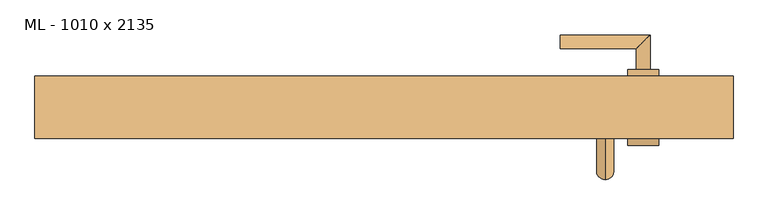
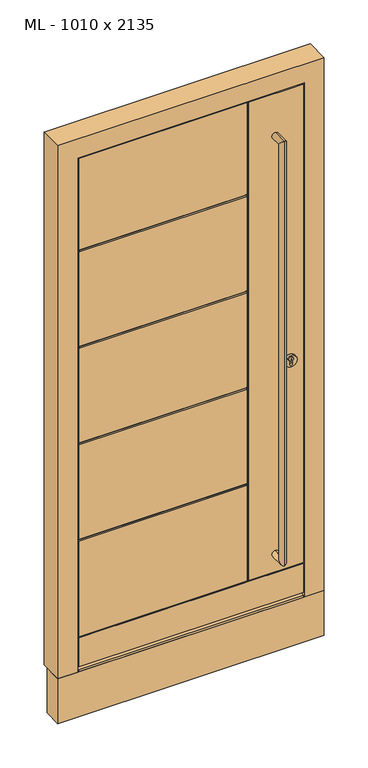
"""IFC4 building model written with IfcOpenShell, lengths in millimetres: door geometry, TU DF 1 - Haustüre : ML - 1010 x 2135."""

from ifc_helpers import new_model, si_unit, point, frame, frame_2d, origin, place, context, project, spatial, polyline, circle_curve, ellipse_curve, trimmed, segment, composite_curve, outline, extrude, faceted_brep, source, transform, mapped, element, save
from ifc_brep_helpers import plane_surface, cylinder_surface, revolved_surface, advanced_brep


def ml_1010_x_2135_97191e1a(model_context):
    return source(origin(), model_context, "Body", "SolidModel", [
        advanced_brep(
        [(320.0, -262.5, 1875.0), (320.0, -262.5, 1900.0), (320.0, -262.5, 225.0), (320.0, -262.5, 200.0), (320.0, -297.5, 225.0), (320.0, -322.5, 200.0), (320.0, -322.5, 1900.0), (320.0, -297.5, 1875.0)],
        [
            (0, 1, circle_curve(frame((320.0, -262.5, 1887.5), z_axis=(0.0, 1.0, 0.0), x_axis=(0.0, 0.0, 1.0)), 12.5)),
            (1, 0, circle_curve(frame((320.0, -262.5, 1887.5), z_axis=(0.0, 1.0, 0.0), x_axis=(0.0, 0.0, 1.0)), 12.5)),
            (2, 3, circle_curve(frame((320.0, -262.5, 212.5), z_axis=(0.0, 1.0, 0.0), x_axis=(0.0, 0.0, -1.0)), 12.5)),
            (3, 2, circle_curve(frame((320.0, -262.5, 212.5), z_axis=(0.0, 1.0, 0.0), x_axis=(0.0, 0.0, -1.0)), 12.5)),
            (4, 5, ellipse_curve(frame((320.0, -310.0, 212.5), z_axis=(0.0, 0.7071067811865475, -0.7071067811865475), x_axis=(0.0, -0.7071067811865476, -0.7071067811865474)), 17.6776695, 12.5)),
            (5, 3),
            (2, 4),
            (5, 4, ellipse_curve(frame((320.0, -310.0, 212.5), z_axis=(0.0, 0.7071067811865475, -0.7071067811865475), x_axis=(0.0, -0.7071067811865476, -0.7071067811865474)), 17.6776695, 12.5)),
            (6, 7, ellipse_curve(frame((320.0, -310.0, 1887.5), z_axis=(0.0, -0.7071067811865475, -0.7071067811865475), x_axis=(0.0, -0.7071067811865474, 0.7071067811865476)), 17.6776695, 12.5)),
            (7, 4),
            (5, 6),
            (7, 6, ellipse_curve(frame((320.0, -310.0, 1887.5), z_axis=(0.0, -0.7071067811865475, -0.7071067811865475), x_axis=(0.0, -0.7071067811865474, 0.7071067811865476)), 17.6776695, 12.5)),
            (0, 7),
            (6, 1),
        ],
        [
            plane_surface(frame((320.0, -262.5, 1900.0), z_axis=(0.0, 1.0, 0.0), x_axis=(-1.0, 0.0, 0.0))),
            plane_surface(frame((320.0, -262.5, 200.0), z_axis=(0.0, 1.0, 0.0), x_axis=(-1.0, 0.0, 0.0))),
            cylinder_surface(frame((320.0, -322.5, 212.5), z_axis=(0.0, -1.0, 0.0), x_axis=(0.0, 0.0, -1.0)), 12.5),
            cylinder_surface(frame((320.0, -310.0, 1900.0), z_axis=(0.0, 0.0, 1.0), x_axis=(0.0, -1.0, 0.0)), 12.5),
            cylinder_surface(frame((320.0, -262.5, 1887.5), z_axis=(0.0, 1.0, 0.0), x_axis=(0.0, 0.0, 1.0)), 12.5),
        ],
        [
            (0, [[1, 2]]),
            (1, [[3, 4]]),
            (2, [[5, 6, -3, 7]]),
            (2, [[8, -7, -4, -6]]),
            (3, [[9, 10, -8, 11]]),
            (3, [[12, -11, -5, -10]]),
            (4, [[-1, 13, -9, 14]]),
            (4, [[-2, -14, -12, -13]]),
        ],
    ),
        advanced_brep(
        [(397.5, -262.5, 970.0), (352.5, -262.5, 970.0), (397.5, -272.5, 970.0), (352.5, -272.5, 970.0), (380.0, -272.5, 958.5), (370.0, -272.5, 958.5), (370.0, -272.5, 971.1261365), (380.0, -272.5, 971.1261365), (380.0, -264.5, 971.1261365), (380.0, -264.5, 958.5), (370.0, -264.5, 971.1261365), (370.0, -264.5, 958.5)],
        [
            (0, 1, circle_curve(frame((375.0, -262.5, 970.0), z_axis=(0.0, 1.0, 0.0), x_axis=(-1.0, 0.0, 0.0)), 22.5)),
            (1, 0, circle_curve(frame((375.0, -262.5, 970.0), z_axis=(0.0, 1.0, 0.0), x_axis=(-1.0, 0.0, 0.0)), 22.5)),
            (2, 3, circle_curve(frame((375.0, -272.5, 970.0), z_axis=(0.0, -1.0, 0.0), x_axis=(-1.0, 0.0, 0.0)), 22.5)),
            (3, 2, circle_curve(frame((375.0, -272.5, 970.0), z_axis=(0.0, -1.0, 0.0), x_axis=(-1.0, 0.0, 0.0)), 22.5)),
            (4, 5, circle_curve(frame((375.0, -272.5, 958.5), z_axis=(0.0, 1.0, 0.0), x_axis=(-1.0, 0.0, 0.0)), 5.0)),
            (5, 6),
            (6, 7, circle_curve(frame((375.0, -272.5, 978.0), z_axis=(0.0, 1.0, 0.0), x_axis=(-1.0, 0.0, 0.0)), 8.5)),
            (7, 4),
            (0, 2),
            (3, 1),
            (7, 8),
            (8, 9),
            (9, 4),
            (6, 10),
            (10, 8, circle_curve(frame((375.0, -264.5, 978.0), z_axis=(0.0, 1.0, 0.0), x_axis=(-1.0, 0.0, 0.0)), 8.5)),
            (5, 11),
            (11, 10),
            (9, 11, circle_curve(frame((375.0, -264.5, 958.5), z_axis=(0.0, 1.0, 0.0), x_axis=(-1.0, 0.0, 0.0)), 5.0)),
        ],
        [
            plane_surface(frame((352.5, -262.5, 970.0), z_axis=(0.0, 1.0, 0.0), x_axis=(0.0, 0.0, 1.0))),
            plane_surface(frame((352.5, -272.5, 970.0), z_axis=(0.0, -1.0, 0.0), x_axis=(0.0, 0.0, -1.0))),
            cylinder_surface(frame((375.0, -272.5, 970.0), z_axis=(0.0, 1.0, 0.0), x_axis=(-1.0, 0.0, 0.0)), 22.5),
            plane_surface(frame((380.0, -262.5, 958.5), z_axis=(-1.0, 0.0, 0.0), x_axis=(0.0, -1.0, 0.0))),
            revolved_surface(polyline([(366.5, -272.5, 978.0), (366.5, -264.5, 978.0)]), (375.0, -262.5, 978.0), (0.0, -1.0, 0.0)),
            plane_surface(frame((370.0, -262.5, 971.1261365), z_axis=(1.0, 0.0, 0.0), x_axis=(0.0, -1.0, 0.0))),
            revolved_surface(polyline([(370.0, -272.5, 958.5), (370.0, -264.5, 958.5)]), (375.0, -262.5, 958.5), (0.0, -1.0, 0.0)),
            plane_surface(frame((366.5, -264.5, 978.0), z_axis=(0.0, -1.0, 0.0), x_axis=(0.0, 0.0, -1.0))),
        ],
        [
            (0, [[1, 2]]),
            (1, [[3, 4], [5, 6, 7, 8]]),
            (2, [[-1, 9, -4, 10]]),
            (2, [[-2, -10, -3, -9]]),
            (3, [[-8, 11, 12, 13]]),
            (4, [[-7, 14, 15, -11]]),
            (5, [[-6, 16, 17, -14]]),
            (6, [[-5, -13, 18, -16]]),
            (7, [[-12, -15, -17, -18]]),
        ],
    ),
        advanced_brep(
        [(212.0, -172.5, 530.2), (-456.0, -172.5, 530.2), (-456.0, -172.5, 908.4), (212.0, -172.5, 908.4), (212.0, -172.5, 916.4), (-456.0, -172.5, 916.4), (-456.0, -172.5, 1294.6), (212.0, -172.5, 1294.6), (456.0, -172.5, 2086.0), (456.0, -172.5, 8.0), (220.0, -172.5, 8.0), (220.0, -172.5, 2086.0), (212.0, -172.5, 1302.6), (-456.0, -172.5, 1302.6), (-456.0, -172.5, 1680.8), (212.0, -172.5, 1680.8), (-456.0, -172.5, 8.0), (-456.0, -172.5, 136.0), (212.0, -172.5, 136.0), (212.0, -172.5, 8.0), (-456.0, -172.5, 144.0), (-456.0, -172.5, 522.2), (212.0, -172.5, 522.2), (212.0, -172.5, 144.0), (-456.0, -172.5, 2086.0), (212.0, -172.5, 2086.0), (212.0, -172.5, 1688.8), (-456.0, -172.5, 1688.8), (456.0, -192.5, 2086.0), (456.0, -192.5, 8.0), (-456.0, -192.5, 2086.0), (-456.0, -192.5, 8.0), (-441.0, -192.5, 2071.0), (441.0, -192.5, 2071.0), (441.0, -192.5, 20.0), (-441.0, -192.5, 20.0), (441.0, -242.5, 2071.0), (441.0, -242.5, 20.0), (-441.0, -242.5, 2071.0), (-441.0, -242.5, 20.0), (-426.0, -242.5, 2056.0), (426.0, -242.5, 2056.0), (426.0, -242.5, 140.0), (-426.0, -242.5, 140.0), (426.0, -262.5, 2056.0), (426.0, -262.5, 140.0), (-426.0, -262.5, 530.2), (212.0, -262.5, 530.2), (212.0, -262.5, 908.4), (-426.0, -262.5, 908.4), (-426.0, -262.5, 916.4), (212.0, -262.5, 916.4), (212.0, -262.5, 1294.6), (-426.0, -262.5, 1294.6), (-426.0, -262.5, 1302.6), (212.0, -262.5, 1302.6), (212.0, -262.5, 1680.8), (-426.0, -262.5, 1680.8), (220.0, -262.5, 2056.0), (220.0, -262.5, 140.0), (-426.0, -262.5, 522.2), (-426.0, -262.5, 140.0), (212.0, -262.5, 140.0), (212.0, -262.5, 522.2), (212.0, -262.5, 2056.0), (-426.0, -262.5, 2056.0), (-426.0, -262.5, 1688.8), (212.0, -262.5, 1688.8), (-426.0, -258.5, 526.2), (-426.0, -258.5, 912.4), (-426.0, -258.5, 1298.6), (-426.0, -258.5, 1684.8), (-456.0, -176.5, 1684.8), (-456.0, -176.5, 1298.6), (-456.0, -176.5, 912.4), (-456.0, -176.5, 526.2), (-456.0, -176.5, 140.0), (216.0, -176.5, 2086.0), (216.0, -258.5, 2056.0), (216.0, -176.5, 8.0), (216.0, -258.5, 140.0), (216.0, -258.5, 526.2), (216.0, -176.5, 526.2), (216.0, -176.5, 140.0), (216.0, -258.5, 1684.8), (216.0, -258.5, 1298.6), (216.0, -258.5, 912.4), (216.0, -176.5, 912.4), (216.0, -176.5, 1298.6), (216.0, -176.5, 1684.8)],
        [
            (0, 1),
            (1, 2),
            (2, 3),
            (3, 0),
            (4, 5),
            (5, 6),
            (6, 7),
            (7, 4),
            (8, 9),
            (9, 10),
            (10, 11),
            (11, 8),
            (12, 13),
            (13, 14),
            (14, 15),
            (15, 12),
            (16, 17),
            (17, 18),
            (18, 19),
            (19, 16),
            (20, 21),
            (21, 22),
            (22, 23),
            (23, 20),
            (24, 25),
            (25, 26),
            (26, 27),
            (27, 24),
            (8, 28),
            (28, 29),
            (29, 9),
            (28, 30),
            (30, 31),
            (31, 29),
            (32, 33),
            (33, 34),
            (34, 35),
            (35, 32),
            (33, 36),
            (36, 37),
            (37, 34),
            (36, 38),
            (38, 39),
            (39, 37),
            (40, 41),
            (41, 42),
            (42, 43),
            (43, 40),
            (41, 44),
            (44, 45),
            (45, 42),
            (46, 47),
            (47, 48),
            (48, 49),
            (49, 46),
            (50, 51),
            (51, 52),
            (52, 53),
            (53, 50),
            (54, 55),
            (55, 56),
            (56, 57),
            (57, 54),
            (44, 58),
            (58, 59),
            (59, 45),
            (60, 61),
            (61, 62),
            (62, 63),
            (63, 60),
            (64, 65),
            (65, 66),
            (66, 67),
            (67, 64),
            (65, 40),
            (43, 61),
            (60, 68, circle_curve(frame((-426.0, -258.5, 522.2), z_axis=(-1.0, 0.0, 0.0), x_axis=(0.0, -1.0, 0.0)), 4.0)),
            (68, 46, circle_curve(frame((-426.0, -258.5, 530.2), z_axis=(-1.0, 0.0, 0.0), x_axis=(0.0, -1.0, 0.0)), 4.0)),
            (49, 69, circle_curve(frame((-426.0, -258.5, 908.4), z_axis=(-1.0, 0.0, 0.0), x_axis=(0.0, -1.0, 0.0)), 4.0)),
            (69, 50, circle_curve(frame((-426.0, -258.5, 916.4), z_axis=(-1.0, 0.0, 0.0), x_axis=(0.0, -1.0, 0.0)), 4.0)),
            (53, 70, circle_curve(frame((-426.0, -258.5, 1294.6), z_axis=(-1.0, 0.0, 0.0), x_axis=(0.0, -1.0, 0.0)), 4.0)),
            (70, 54, circle_curve(frame((-426.0, -258.5, 1302.6), z_axis=(-1.0, 0.0, 0.0), x_axis=(0.0, -1.0, 0.0)), 4.0)),
            (57, 71, circle_curve(frame((-426.0, -258.5, 1680.8), z_axis=(-1.0, 0.0, 0.0), x_axis=(0.0, -1.0, 0.0)), 4.0)),
            (71, 66, circle_curve(frame((-426.0, -258.5, 1688.8), z_axis=(-1.0, 0.0, 0.0), x_axis=(0.0, -1.0, 0.0)), 4.0)),
            (38, 32),
            (35, 39),
            (30, 24),
            (27, 72, circle_curve(frame((-456.0, -176.5, 1688.8), z_axis=(-1.0, 0.0, 0.0), x_axis=(0.0, 1.0, 0.0)), 4.0)),
            (72, 14, circle_curve(frame((-456.0, -176.5, 1680.8), z_axis=(-1.0, 0.0, 0.0), x_axis=(0.0, 1.0, 0.0)), 4.0)),
            (13, 73, circle_curve(frame((-456.0, -176.5, 1302.6), z_axis=(-1.0, 0.0, 0.0), x_axis=(0.0, 1.0, 0.0)), 4.0)),
            (73, 6, circle_curve(frame((-456.0, -176.5, 1294.6), z_axis=(-1.0, 0.0, 0.0), x_axis=(0.0, 1.0, 0.0)), 4.0)),
            (5, 74, circle_curve(frame((-456.0, -176.5, 916.4), z_axis=(-1.0, 0.0, 0.0), x_axis=(0.0, 1.0, 0.0)), 4.0)),
            (74, 2, circle_curve(frame((-456.0, -176.5, 908.4), z_axis=(-1.0, 0.0, 0.0), x_axis=(0.0, 1.0, 0.0)), 4.0)),
            (1, 75, circle_curve(frame((-456.0, -176.5, 530.2), z_axis=(-1.0, 0.0, 0.0), x_axis=(0.0, 1.0, 0.0)), 4.0)),
            (75, 21, circle_curve(frame((-456.0, -176.5, 522.2), z_axis=(-1.0, 0.0, 0.0), x_axis=(0.0, 1.0, 0.0)), 4.0)),
            (20, 76, circle_curve(frame((-456.0, -176.5, 144.0), z_axis=(-1.0, 0.0, 0.0), x_axis=(0.0, 1.0, 0.0)), 4.0)),
            (76, 17, circle_curve(frame((-456.0, -176.5, 136.0), z_axis=(-1.0, 0.0, 0.0), x_axis=(0.0, 1.0, 0.0)), 4.0)),
            (16, 31),
            (11, 77, circle_curve(frame((220.0, -176.5, 2086.0), z_axis=(0.0, 0.0, 1.0), x_axis=(0.0, 1.0, 0.0)), 4.0)),
            (77, 25, circle_curve(frame((212.0, -176.5, 2086.0), z_axis=(0.0, 0.0, 1.0), x_axis=(0.0, 1.0, 0.0)), 4.0)),
            (64, 78, circle_curve(frame((212.0, -258.5, 2056.0), z_axis=(0.0, 0.0, 1.0), x_axis=(0.0, -1.0, 0.0)), 4.0)),
            (78, 58, circle_curve(frame((220.0, -258.5, 2056.0), z_axis=(0.0, 0.0, 1.0), x_axis=(0.0, -1.0, 0.0)), 4.0)),
            (19, 79, circle_curve(frame((212.0, -176.5, 8.0), z_axis=(0.0, 0.0, -1.0), x_axis=(0.0, 1.0, 0.0)), 4.0)),
            (79, 10, circle_curve(frame((220.0, -176.5, 8.0), z_axis=(0.0, 0.0, -1.0), x_axis=(0.0, 1.0, 0.0)), 4.0)),
            (59, 80, circle_curve(frame((220.0, -258.5, 140.0), z_axis=(0.0, 0.0, -1.0), x_axis=(0.0, -1.0, 0.0)), 4.0)),
            (80, 62, circle_curve(frame((212.0, -258.5, 140.0), z_axis=(0.0, 0.0, -1.0), x_axis=(0.0, -1.0, 0.0)), 4.0)),
            (81, 68),
            (63, 81, ellipse_curve(frame((212.0, -258.5, 522.2), z_axis=(-0.7071067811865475, 0.0, 0.7071067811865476), x_axis=(-0.7071067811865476, 0.0, -0.7071067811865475)), 5.6568542, 4.0)),
            (81, 47, ellipse_curve(frame((212.0, -258.5, 530.2), z_axis=(-0.7071067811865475, 0.0, -0.7071067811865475), x_axis=(-0.7071067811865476, 0.0, 0.7071067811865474)), 5.6568542, 4.0)),
            (75, 82),
            (82, 22, ellipse_curve(frame((212.0, -176.5, 522.2), z_axis=(-0.7071067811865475, 0.0, 0.7071067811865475), x_axis=(0.7071067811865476, 0.0, 0.7071067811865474)), 5.6568542, 4.0)),
            (0, 82, ellipse_curve(frame((212.0, -176.5, 530.2), z_axis=(-0.7071067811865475, 0.0, -0.7071067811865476), x_axis=(0.7071067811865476, 0.0, -0.7071067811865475)), 5.6568542, 4.0)),
            (76, 83),
            (83, 18, ellipse_curve(frame((212.0, -176.5, 136.0), z_axis=(-0.7071067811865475, 0.0, 0.7071067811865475), x_axis=(-0.7071067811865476, 0.0, -0.7071067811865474)), 5.6568542, 4.0)),
            (23, 83, ellipse_curve(frame((212.0, -176.5, 144.0), z_axis=(-0.7071067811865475, 0.0, -0.7071067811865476), x_axis=(-0.7071067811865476, 0.0, 0.7071067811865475)), 5.6568542, 4.0)),
            (81, 80),
            (78, 84),
            (84, 85),
            (85, 86),
            (86, 81),
            (67, 84, ellipse_curve(frame((212.0, -258.5, 1688.8), z_axis=(0.7071067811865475, 0.0, 0.7071067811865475), x_axis=(-0.7071067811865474, 0.0, 0.7071067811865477)), 5.6568542, 4.0)),
            (86, 48, ellipse_curve(frame((212.0, -258.5, 908.4), z_axis=(0.7071067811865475, 0.0, -0.7071067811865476), x_axis=(0.7071067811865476, 0.0, 0.7071067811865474)), 5.6568542, 4.0)),
            (51, 86, ellipse_curve(frame((212.0, -258.5, 916.4), z_axis=(0.7071067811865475, 0.0, 0.7071067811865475), x_axis=(-0.7071067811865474, 0.0, 0.7071067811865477)), 5.6568542, 4.0)),
            (85, 52, ellipse_curve(frame((212.0, -258.5, 1294.6), z_axis=(0.7071067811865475, 0.0, -0.7071067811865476), x_axis=(0.7071067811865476, 0.0, 0.7071067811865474)), 5.6568542, 4.0)),
            (55, 85, ellipse_curve(frame((212.0, -258.5, 1302.6), z_axis=(0.7071067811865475, 0.0, 0.7071067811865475), x_axis=(-0.7071067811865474, 0.0, 0.7071067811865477)), 5.6568542, 4.0)),
            (84, 56, ellipse_curve(frame((212.0, -258.5, 1680.8), z_axis=(0.7071067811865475, 0.0, -0.7071067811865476), x_axis=(0.7071067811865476, 0.0, 0.7071067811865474)), 5.6568542, 4.0)),
            (86, 69),
            (83, 82),
            (82, 87),
            (87, 88),
            (88, 89),
            (89, 77),
            (79, 83),
            (89, 26, ellipse_curve(frame((212.0, -176.5, 1688.8), z_axis=(0.7071067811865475, 0.0, 0.7071067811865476), x_axis=(0.7071067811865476, 0.0, -0.7071067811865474)), 5.6568542, 4.0)),
            (3, 87, ellipse_curve(frame((212.0, -176.5, 908.4), z_axis=(0.7071067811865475, 0.0, -0.7071067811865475), x_axis=(-0.7071067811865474, 0.0, -0.7071067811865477)), 5.6568542, 4.0)),
            (87, 4, ellipse_curve(frame((212.0, -176.5, 916.4), z_axis=(0.7071067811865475, 0.0, 0.7071067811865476), x_axis=(0.7071067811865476, 0.0, -0.7071067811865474)), 5.6568542, 4.0)),
            (7, 88, ellipse_curve(frame((212.0, -176.5, 1294.6), z_axis=(0.7071067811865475, 0.0, -0.7071067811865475), x_axis=(-0.7071067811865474, 0.0, -0.7071067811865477)), 5.6568542, 4.0)),
            (88, 12, ellipse_curve(frame((212.0, -176.5, 1302.6), z_axis=(0.7071067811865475, 0.0, 0.7071067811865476), x_axis=(0.7071067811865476, 0.0, -0.7071067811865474)), 5.6568542, 4.0)),
            (15, 89, ellipse_curve(frame((212.0, -176.5, 1680.8), z_axis=(0.7071067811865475, 0.0, -0.7071067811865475), x_axis=(-0.7071067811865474, 0.0, -0.7071067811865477)), 5.6568542, 4.0)),
            (74, 87),
            (73, 88),
            (85, 70),
            (72, 89),
            (84, 71),
        ],
        [
            plane_surface(frame((456.0, -172.5, 2086.0), z_axis=(0.0, 1.0, 0.0), x_axis=(0.0, 0.0, -1.0))),
            plane_surface(frame((456.0, -262.5, 2086.0), z_axis=(1.0, 0.0, 0.0), x_axis=(0.0, 0.0, -1.0))),
            plane_surface(frame((441.0, -192.5, 0.0), z_axis=(0.0, -1.0, 0.0), x_axis=(0.0, 0.0, 1.0))),
            plane_surface(frame((441.0, -242.5, 0.0), z_axis=(1.0, 0.0, 0.0), x_axis=(0.0, 0.0, 1.0))),
            plane_surface(frame((426.0, -242.5, 0.0), z_axis=(0.0, -1.0, 0.0), x_axis=(0.0, 0.0, 1.0))),
            plane_surface(frame((426.0, -262.5, 0.0), z_axis=(1.0, 0.0, 0.0), x_axis=(0.0, 0.0, 1.0))),
            plane_surface(frame((-456.0, -262.5, 2086.0), z_axis=(0.0, -1.0, 0.0), x_axis=(0.0, 0.0, -1.0))),
            plane_surface(frame((-426.0, -262.5, 2056.0), z_axis=(-1.0, 0.0, 0.0), x_axis=(0.0, 0.0, -1.0))),
            plane_surface(frame((-441.0, -242.5, 2071.0), z_axis=(-1.0, 0.0, 0.0), x_axis=(0.0, 0.0, -1.0))),
            plane_surface(frame((-456.0, -172.5, 2086.0), z_axis=(-1.0, 0.0, 0.0), x_axis=(0.0, 0.0, -1.0))),
            plane_surface(frame((456.0, -262.5, 2086.0), z_axis=(0.0, 0.0, 1.0), x_axis=(1.0, 0.0, 0.0))),
            plane_surface(frame((426.0, -262.5, 2056.0), z_axis=(0.0, 0.0, 1.0), x_axis=(-1.0, 0.0, 0.0))),
            plane_surface(frame((441.0, -242.5, 2071.0), z_axis=(0.0, 0.0, 1.0), x_axis=(-1.0, 0.0, 0.0))),
            plane_surface(frame((-456.0, -262.5, 20.0), z_axis=(0.0, 0.0, -1.0), x_axis=(1.0, 0.0, 0.0))),
            plane_surface(frame((-456.0, -192.5, 8.0), z_axis=(0.0, 0.0, -1.0), x_axis=(1.0, 0.0, 0.0))),
            plane_surface(frame((-456.0, -262.5, 140.0), z_axis=(0.0, 0.0, -1.0), x_axis=(1.0, 0.0, 0.0))),
            cylinder_surface(frame((216.0, -258.5, 522.2), z_axis=(-1.0, 0.0, 0.0), x_axis=(0.0, -1.0, 0.0)), 4.0),
            cylinder_surface(frame((216.0, -258.5, 530.2), z_axis=(-1.0, 0.0, 0.0), x_axis=(0.0, -1.0, 0.0)), 4.0),
            cylinder_surface(frame((-496.0, -176.5, 522.2), z_axis=(1.0, 0.0, 0.0), x_axis=(0.0, 1.0, 0.0)), 4.0),
            cylinder_surface(frame((-496.0, -176.5, 530.2), z_axis=(1.0, 0.0, 0.0), x_axis=(0.0, 1.0, 0.0)), 4.0),
            cylinder_surface(frame((216.0, -176.5, 136.0), z_axis=(-1.0, 0.0, 0.0), x_axis=(0.0, 1.0, 0.0)), 4.0),
            cylinder_surface(frame((216.0, -176.5, 144.0), z_axis=(-1.0, 0.0, 0.0), x_axis=(0.0, 1.0, 0.0)), 4.0),
            cylinder_surface(frame((220.0, -258.5, -10.0), z_axis=(0.0, 0.0, 1.0), x_axis=(0.0, -1.0, 0.0)), 4.0),
            cylinder_surface(frame((212.0, -258.5, -10.0), z_axis=(0.0, 0.0, 1.0), x_axis=(0.0, -1.0, 0.0)), 4.0),
            cylinder_surface(frame((216.0, -258.5, 908.4), z_axis=(-1.0, 0.0, 0.0), x_axis=(0.0, -1.0, 0.0)), 4.0),
            cylinder_surface(frame((216.0, -258.5, 916.4), z_axis=(-1.0, 0.0, 0.0), x_axis=(0.0, -1.0, 0.0)), 4.0),
            cylinder_surface(frame((220.0, -176.5, 2096.0), z_axis=(0.0, 0.0, -1.0), x_axis=(0.0, 1.0, 0.0)), 4.0),
            cylinder_surface(frame((212.0, -176.5, 2096.0), z_axis=(0.0, 0.0, -1.0), x_axis=(0.0, 1.0, 0.0)), 4.0),
            cylinder_surface(frame((-496.0, -176.5, 908.4), z_axis=(1.0, 0.0, 0.0), x_axis=(0.0, 1.0, 0.0)), 4.0),
            cylinder_surface(frame((-496.0, -176.5, 916.4), z_axis=(1.0, 0.0, 0.0), x_axis=(0.0, 1.0, 0.0)), 4.0),
            cylinder_surface(frame((-496.0, -176.5, 1294.6), z_axis=(1.0, 0.0, 0.0), x_axis=(0.0, 1.0, 0.0)), 4.0),
            cylinder_surface(frame((-496.0, -176.5, 1302.6), z_axis=(1.0, 0.0, 0.0), x_axis=(0.0, 1.0, 0.0)), 4.0),
            cylinder_surface(frame((216.0, -258.5, 1294.6), z_axis=(-1.0, 0.0, 0.0), x_axis=(0.0, -1.0, 0.0)), 4.0),
            cylinder_surface(frame((216.0, -258.5, 1302.6), z_axis=(-1.0, 0.0, 0.0), x_axis=(0.0, -1.0, 0.0)), 4.0),
            cylinder_surface(frame((-496.0, -176.5, 1680.8), z_axis=(1.0, 0.0, 0.0), x_axis=(0.0, 1.0, 0.0)), 4.0),
            cylinder_surface(frame((-496.0, -176.5, 1688.8), z_axis=(1.0, 0.0, 0.0), x_axis=(0.0, 1.0, 0.0)), 4.0),
            cylinder_surface(frame((216.0, -258.5, 1680.8), z_axis=(-1.0, 0.0, 0.0), x_axis=(0.0, -1.0, 0.0)), 4.0),
            cylinder_surface(frame((216.0, -258.5, 1688.8), z_axis=(-1.0, 0.0, 0.0), x_axis=(0.0, -1.0, 0.0)), 4.0),
        ],
        [
            (0, [[1, 2, 3, 4]]),
            (0, [[5, 6, 7, 8]]),
            (0, [[9, 10, 11, 12]]),
            (0, [[13, 14, 15, 16]]),
            (0, [[17, 18, 19, 20]]),
            (0, [[21, 22, 23, 24]]),
            (0, [[25, 26, 27, 28]]),
            (1, [[29, 30, 31, -9]]),
            (2, [[32, 33, 34, -30], [35, 36, 37, 38]]),
            (3, [[39, 40, 41, -36]]),
            (4, [[42, 43, 44, -40], [45, 46, 47, 48]]),
            (5, [[49, 50, 51, -46]]),
            (6, [[52, 53, 54, 55]]),
            (6, [[56, 57, 58, 59]]),
            (6, [[60, 61, 62, 63]]),
            (6, [[-50, 64, 65, 66]]),
            (6, [[67, 68, 69, 70]]),
            (6, [[71, 72, 73, 74]]),
            (7, [[75, -48, 76, -67, 77, 78, -55, 79, 80, -59, 81, 82, -63, 83, 84, -72]]),
            (8, [[85, -38, 86, -43]]),
            (9, [[87, -28, 88, 89, -14, 90, 91, -6, 92, 93, -2, 94, 95, -21, 96, 97, -17, 98, -33]]),
            (10, [[-29, -12, 99, 100, -25, -87, -32]]),
            (11, [[-49, -45, -75, -71, 101, 102, -64]]),
            (12, [[-42, -39, -35, -85]]),
            (13, [[-37, -41, -44, -86]]),
            (14, [[-31, -34, -98, -20, 103, 104, -10]]),
            (15, [[-47, -51, -66, 105, 106, -68, -76]]),
            (16, [[107, -77, -70, 108]]),
            (17, [[-107, 109, -52, -78]]),
            (18, [[110, 111, -22, -95]]),
            (19, [[-110, -94, -1, 112]]),
            (20, [[113, 114, -18, -97]]),
            (21, [[-113, -96, -24, 115]]),
            (22, [[116, -105, -65, -102, 117, 118, 119, 120]]),
            (23, [[-101, -74, 121, -117]]),
            (23, [[-109, -120, 122, -53]]),
            (23, [[-116, -108, -69, -106]]),
            (23, [[123, -119, 124, -57]]),
            (23, [[125, -118, 126, -61]]),
            (24, [[127, -79, -54, -122]]),
            (25, [[-127, -123, -56, -80]]),
            (26, [[128, 129, 130, 131, 132, -99, -11, -104, 133]]),
            (27, [[-100, -132, 134, -26]]),
            (27, [[-112, -4, 135, -129]]),
            (27, [[-133, -103, -19, -114]]),
            (27, [[-128, -115, -23, -111]]),
            (27, [[136, -8, 137, -130]]),
            (27, [[138, -16, 139, -131]]),
            (28, [[140, -135, -3, -93]]),
            (29, [[-140, -92, -5, -136]]),
            (30, [[141, -137, -7, -91]]),
            (31, [[-141, -90, -13, -138]]),
            (32, [[142, -81, -58, -124]]),
            (33, [[-142, -125, -60, -82]]),
            (34, [[143, -139, -15, -89]]),
            (35, [[-143, -88, -27, -134]]),
            (36, [[144, -83, -62, -126]]),
            (37, [[-144, -121, -73, -84]]),
        ],
    ),
        extrude(outline(polyline([(-242.5, 140.0), (-242.5, 20.0), (-254.4609036, 20.0), (-254.4609036, 24.0), (-258.4609036, 24.0), (-258.4609036, 20.0), (-262.5, 20.0), (-262.5, 136.0), (-258.5, 136.0), (-258.5, 140.0), (-242.5, 140.0)])), frame((-426.0, 0.0, 0.0), z_axis=(1.0, 0.0, 0.0), x_axis=(0.0, 1.0, 0.0)), (0.0, 0.0, 1.0), 852.0),
        faceted_brep([(426.0, -242.5, 0.0), (426.0, -242.5, 9.0), (426.0, -262.5, 7.0), (426.0, -262.5, 0.0), (-426.0, -242.5, 0.0), (-426.0, -242.5, 9.0), (-441.0, -242.5, 9.0), (-441.0, -242.5, 0.0), (441.0, -242.5, 0.0), (441.0, -242.5, 9.0), (441.0, -192.5, 0.0), (441.0, -192.5, 15.0), (441.0, -212.5, 15.0), (441.0, -212.5, 12.0), (-426.0, -262.5, 0.0), (-426.0, -262.5, 7.0), (-441.0, -212.5, 12.0), (-441.0, -212.5, 15.0), (-441.0, -192.5, 15.0), (-441.0, -192.5, 0.0)], [[[0, 1, 2, 3]], [[4, 5, 6, 7]], [[1, 0, 8, 9]], [[9, 8, 10, 11, 12, 13]], [[5, 4, 14, 15]], [[7, 6, 16, 17, 18, 19]], [[18, 11, 10, 19]], [[19, 10, 8, 0, 3, 14, 4, 7]], [[14, 3, 2, 15]], [[11, 18, 17, 12]], [[15, 2, 1, 9, 13, 16, 6, 5]], [[12, 17, 16, 13]]]),
        advanced_brep(
        [(397.5, -172.5, 970.0), (352.5, -172.5, 970.0), (397.5, -162.5, 970.0), (352.5, -162.5, 970.0), (380.0, -162.5, 958.5), (380.0, -162.5, 971.1261365), (370.0, -162.5, 971.1261365), (370.0, -162.5, 958.5), (380.0, -170.5, 958.5), (380.0, -170.5, 971.1261365), (370.0, -170.5, 971.1261365), (370.0, -170.5, 958.5)],
        [
            (0, 1, circle_curve(frame((375.0, -172.5, 970.0), z_axis=(0.0, -1.0, 0.0), x_axis=(-1.0, 0.0, 0.0)), 22.5)),
            (1, 0, circle_curve(frame((375.0, -172.5, 970.0), z_axis=(0.0, -1.0, 0.0), x_axis=(-1.0, 0.0, 0.0)), 22.5)),
            (2, 3, circle_curve(frame((375.0, -162.5, 970.0), z_axis=(0.0, 1.0, 0.0), x_axis=(-1.0, 0.0, 0.0)), 22.5)),
            (3, 2, circle_curve(frame((375.0, -162.5, 970.0), z_axis=(0.0, 1.0, 0.0), x_axis=(-1.0, 0.0, 0.0)), 22.5)),
            (4, 5),
            (5, 6, circle_curve(frame((375.0, -162.5, 978.0), z_axis=(0.0, -1.0, 0.0), x_axis=(-1.0, 0.0, 0.0)), 8.5)),
            (6, 7),
            (7, 4, circle_curve(frame((375.0, -162.5, 958.5), z_axis=(0.0, -1.0, 0.0), x_axis=(-1.0, 0.0, 0.0)), 5.0)),
            (1, 3),
            (2, 0),
            (4, 8),
            (8, 9),
            (9, 5),
            (9, 10, circle_curve(frame((375.0, -170.5, 978.0), z_axis=(0.0, -1.0, 0.0), x_axis=(-1.0, 0.0, 0.0)), 8.5)),
            (10, 6),
            (10, 11),
            (11, 7),
            (11, 8, circle_curve(frame((375.0, -170.5, 958.5), z_axis=(0.0, -1.0, 0.0), x_axis=(-1.0, 0.0, 0.0)), 5.0)),
        ],
        [
            plane_surface(frame((352.5, -172.5, 970.0), z_axis=(0.0, -1.0, 0.0), x_axis=(0.0, 0.0, 1.0))),
            plane_surface(frame((352.5, -162.5, 970.0), z_axis=(0.0, 1.0, 0.0), x_axis=(0.0, 0.0, -1.0))),
            cylinder_surface(frame((375.0, -162.5, 970.0), z_axis=(0.0, -1.0, 0.0), x_axis=(-1.0, 0.0, 0.0)), 22.5),
            plane_surface(frame((380.0, -172.5, 958.5), z_axis=(-1.0, 0.0, 0.0), x_axis=(0.0, 1.0, 0.0))),
            revolved_surface(polyline([(366.5, -162.5, 978.0), (366.5, -170.5, 978.0)]), (375.0, -172.5, 978.0), (0.0, 1.0, 0.0)),
            plane_surface(frame((370.0, -172.5, 971.1261365), z_axis=(1.0, 0.0, 0.0), x_axis=(0.0, 1.0, 0.0))),
            revolved_surface(polyline([(370.0, -162.5, 958.5), (370.0, -170.5, 958.5)]), (375.0, -172.5, 958.5), (0.0, 1.0, 0.0)),
            plane_surface(frame((380.0, -170.5, 958.5), z_axis=(0.0, 1.0, 0.0), x_axis=(0.0, 0.0, 1.0))),
        ],
        [
            (0, [[1, 2]]),
            (1, [[3, 4], [5, 6, 7, 8]]),
            (2, [[9, -3, 10, -2]]),
            (2, [[-10, -4, -9, -1]]),
            (3, [[11, 12, 13, -5]]),
            (4, [[-13, 14, 15, -6]]),
            (5, [[-15, 16, 17, -7]]),
            (6, [[-17, 18, -11, -8]]),
            (7, [[-18, -16, -14, -12]]),
        ],
    ),
        advanced_brep(
        [(365.0, -162.5, 1050.0), (385.0, -162.5, 1050.0), (385.0, -112.5, 1050.0), (365.0, -132.5, 1050.0), (255.0, -132.5, 1050.0), (255.0, -112.5, 1050.0)],
        [
            (0, 1, circle_curve(frame((375.0, -162.5, 1050.0), z_axis=(0.0, -1.0, 0.0), x_axis=(1.0, 0.0, 0.0)), 10.0)),
            (1, 0, circle_curve(frame((375.0, -162.5, 1050.0), z_axis=(0.0, -1.0, 0.0), x_axis=(1.0, 0.0, 0.0)), 10.0)),
            (1, 2),
            (2, 3, ellipse_curve(frame((375.0, -122.5, 1050.0), z_axis=(0.7071067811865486, -0.7071067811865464, 0.0), x_axis=(-0.7071067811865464, -0.7071067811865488, 0.0)), 14.1421356, 10.0)),
            (3, 0),
            (3, 2, ellipse_curve(frame((375.0, -122.5, 1050.0), z_axis=(0.7071067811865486, -0.7071067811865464, 0.0), x_axis=(-0.7071067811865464, -0.7071067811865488, 0.0)), 14.1421356, 10.0)),
            (4, 5, circle_curve(frame((255.0, -122.5, 1050.0), z_axis=(-1.0, 0.0, 0.0), x_axis=(0.0, 1.0, 0.0)), 10.0)),
            (5, 4, circle_curve(frame((255.0, -122.5, 1050.0), z_axis=(-1.0, 0.0, 0.0), x_axis=(0.0, 1.0, 0.0)), 10.0)),
            (2, 5),
            (4, 3),
        ],
        [
            plane_surface(frame((375.0, -162.5, 1050.0), z_axis=(0.0, -1.0, 0.0), x_axis=(0.0, 0.0, 1.0))),
            cylinder_surface(frame((375.0, -162.5, 1050.0), z_axis=(0.0, -1.0, 0.0), x_axis=(1.0, 0.0, 0.0)), 10.0),
            plane_surface(frame((255.0, -122.5, 1050.0), z_axis=(-1.0, 0.0, 0.0), x_axis=(0.0, 0.0, 1.0))),
            cylinder_surface(frame((375.0, -122.5, 1050.0), z_axis=(1.0, 0.0, 0.0), x_axis=(0.0, 1.0, 0.0)), 10.0),
        ],
        [
            (0, [[1, 2]]),
            (1, [[3, 4, 5, -2]]),
            (1, [[-5, 6, -3, -1]]),
            (2, [[7, 8]]),
            (3, [[9, -7, 10, -4]]),
            (3, [[-10, -8, -9, -6]]),
        ],
    ),
        advanced_brep(
        [(365.0, -162.5, 1050.0), (385.0, -162.5, 1050.0), (385.0, -112.5, 1050.0), (365.0, -132.5, 1050.0), (255.0, -132.5, 1050.0), (255.0, -112.5, 1050.0)],
        [
            (0, 1, circle_curve(frame((375.0, -162.5, 1050.0), z_axis=(0.0, -1.0, 0.0), x_axis=(1.0, 0.0, 0.0)), 10.0)),
            (1, 0, circle_curve(frame((375.0, -162.5, 1050.0), z_axis=(0.0, -1.0, 0.0), x_axis=(1.0, 0.0, 0.0)), 10.0)),
            (1, 2),
            (2, 3, ellipse_curve(frame((375.0, -122.5, 1050.0), z_axis=(0.7071067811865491, -0.7071067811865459, 0.0), x_axis=(-0.7071067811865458, -0.7071067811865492, 0.0)), 14.1421356, 10.0)),
            (3, 0),
            (3, 2, ellipse_curve(frame((375.0, -122.5, 1050.0), z_axis=(0.7071067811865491, -0.7071067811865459, 0.0), x_axis=(-0.7071067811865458, -0.7071067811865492, 0.0)), 14.1421356, 10.0)),
            (4, 5, circle_curve(frame((255.0, -122.5, 1050.0), z_axis=(-1.0, 0.0, 0.0), x_axis=(0.0, 1.0, 0.0)), 10.0)),
            (5, 4, circle_curve(frame((255.0, -122.5, 1050.0), z_axis=(-1.0, 0.0, 0.0), x_axis=(0.0, 1.0, 0.0)), 10.0)),
            (2, 5),
            (4, 3),
        ],
        [
            plane_surface(frame((375.0, -162.5, 1050.0), z_axis=(0.0, -1.0, 0.0), x_axis=(0.0, 0.0, 1.0))),
            cylinder_surface(frame((375.0, -162.5, 1050.0), z_axis=(0.0, -1.0, 0.0), x_axis=(1.0, 0.0, 0.0)), 10.0),
            plane_surface(frame((255.0, -122.5, 1050.0), z_axis=(-1.0, 0.0, 0.0), x_axis=(0.0, 0.0, 1.0))),
            cylinder_surface(frame((375.0, -122.5, 1050.0), z_axis=(1.0, 0.0, 0.0), x_axis=(0.0, 1.0, 0.0)), 10.0),
        ],
        [
            (0, [[1, 2]]),
            (1, [[3, 4, 5, -2]]),
            (1, [[-5, 6, -3, -1]]),
            (2, [[7, 8]]),
            (3, [[9, -7, 10, -4]]),
            (3, [[-10, -8, -9, -6]]),
        ],
    ),
        extrude(outline(composite_curve([segment(trimmed(circle_curve(frame_2d((1050.0, 375.0)), 22.5), [point((1050.0, 397.5))], [point((1050.0, 352.5))], False, "CARTESIAN"), True, "CONTINUOUS"), segment(trimmed(circle_curve(frame_2d((1050.0, 375.0)), 22.5), [point((1050.0, 352.5))], [point((1050.0, 397.5))], False, "CARTESIAN"), True, "CONTINUOUS")], self_intersect=False)), frame((0.0, -172.5, 0.0), z_axis=(0.0, 1.0, 0.0), x_axis=(0.0, 0.0, 1.0)), (0.0, 0.0, 1.0), 10.0),
        faceted_brep([(-505.0, -172.5, 2135.0), (505.0, -172.5, 2135.0), (505.0, -172.5, 0.0), (460.0, -172.5, 0.0), (460.0, -172.5, 2090.0), (-460.0, -172.5, 2090.0), (-460.0, -172.5, 0.0), (-505.0, -172.5, 0.0), (-505.0, -262.5, 0.0), (-505.0, -262.5, 2135.0), (-460.0, -192.5, 0.0), (-445.0, -192.5, 0.0), (-445.0, -242.5, 0.0), (-430.0, -242.5, 0.0), (-430.0, -262.5, 0.0), (-460.0, -192.5, 2090.0), (460.0, -192.5, 2090.0), (460.0, -192.5, 0.0), (430.0, -262.5, 0.0), (430.0, -242.5, 0.0), (445.0, -242.5, 0.0), (445.0, -192.5, 0.0), (505.0, -262.5, 0.0), (505.0, -262.5, 2135.0), (-430.0, -262.5, 2060.0), (430.0, -262.5, 2060.0), (430.0, -242.5, 2060.0), (-430.0, -242.5, 2060.0), (445.0, -192.5, 2075.0), (-445.0, -192.5, 2075.0), (445.0, -242.5, 2075.0), (-445.0, -242.5, 2075.0)], [[[0, 1, 2, 3, 4, 5, 6, 7]], [[7, 8, 9, 0]], [[8, 7, 6, 10, 11, 12, 13, 14]], [[10, 6, 5, 15]], [[16, 4, 3, 17]], [[18, 19, 20, 21, 17, 3, 2, 22]], [[1, 23, 22, 2]], [[9, 8, 14, 24, 25, 18, 22, 23]], [[25, 26, 19, 18]], [[14, 13, 27, 24]], [[15, 16, 17, 21, 28, 29, 11, 10]], [[21, 20, 30, 28]], [[31, 30, 20, 19, 26, 27, 13, 12]], [[29, 31, 12, 11]], [[0, 9, 23, 1]], [[24, 27, 26, 25]], [[5, 4, 16, 15]], [[28, 30, 31, 29]]]),
        extrude(outline(polyline([(505.0, -262.5), (-505.0, -262.5), (-505.0, -192.5), (505.0, -192.5), (505.0, -262.5)])), frame((0.0, 0.0, -180.0), z_axis=(0.0, 0.0, 1.0), x_axis=(1.0, 0.0, 0.0)), (0.0, 0.0, 1.0), 180.0),
    ])


if __name__ == "__main__":
    model = new_model("IFC4")
    model_context = context("Model", 3, world=origin())
    ifc_project = project(units=[si_unit("LENGTHUNIT", "METRE", prefix="MILLI")], contexts=[model_context])
    site = spatial("IfcSite", under=ifc_project)
    building = spatial("IfcBuilding", under=site)
    placement = place(None, origin())
    ml_1010_x_2135_shape = ml_1010_x_2135_97191e1a(model_context)
    element("IfcDoor", 1, ObjectType="TU DF 1 - Haustüre : ML - 1010 x 2135", at=placement, inside=building, context=model_context, shape_type="MappedRepresentation", body=[
        mapped(ml_1010_x_2135_shape, transform((0.0, 0.0, 0.0), x_axis=(1.0, 0.0, 0.0), y_axis=(0.0, 1.0, 0.0), z_axis=(0.0, 0.0, 1.0))),
    ])
    save(model, "model.ifc")
